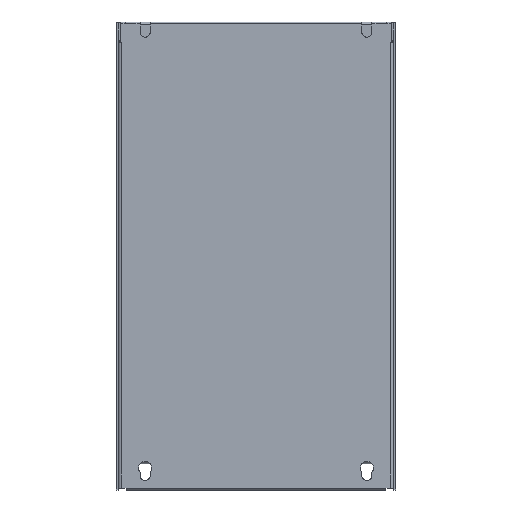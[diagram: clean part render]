
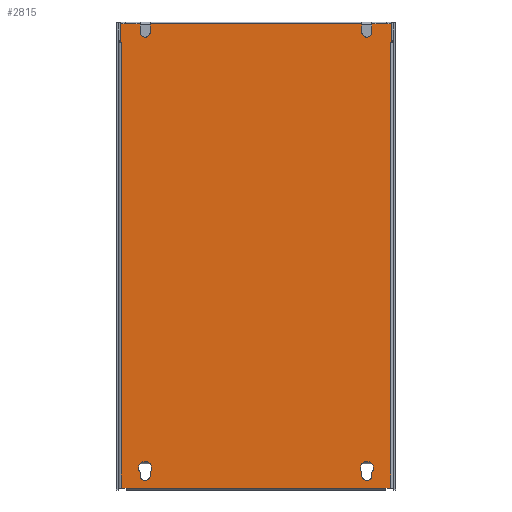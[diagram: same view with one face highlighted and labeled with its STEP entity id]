
A CAD part, front view. The second image highlights one B-rep face of the part: STEP entity #2815.
In plain terms, the highlighted planar face has unit normal (0, -1, 0).
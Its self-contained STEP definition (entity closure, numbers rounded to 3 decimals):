
#147=DIRECTION('',(1.,0.,0.));
#148=VECTOR('',#147,158.2);
#149=CARTESIAN_POINT('',(-79.1,-1.2,-141.3));
#150=LINE('',#149,#148);
#498=CARTESIAN_POINT('',(-67.5,-1.2,136.3));
#499=DIRECTION('',(0.,-1.,0.));
#500=DIRECTION('',(-1.,0.,0.));
#501=AXIS2_PLACEMENT_3D('',#498,#499,#500);
#506=DIRECTION('',(0.,0.,1.));
#507=VECTOR('',#506,5.);
#508=CARTESIAN_POINT('',(-64.5,-1.2,136.3));
#509=LINE('',#508,#507);
#513=CARTESIAN_POINT('',(67.5,-1.2,136.3));
#514=DIRECTION('',(0.,-1.,0.));
#515=DIRECTION('',(-1.,0.,0.));
#516=AXIS2_PLACEMENT_3D('',#513,#514,#515);
#521=DIRECTION('',(0.,0.,1.));
#522=VECTOR('',#521,5.);
#523=CARTESIAN_POINT('',(70.5,-1.2,136.3));
#524=LINE('',#523,#522);
#528=DIRECTION('',(-1.,0.,0.));
#529=VECTOR('',#528,0.5);
#530=CARTESIAN_POINT('',(82.6,-1.2,130.3));
#531=LINE('',#530,#529);
#535=DIRECTION('',(-1.,0.,0.));
#536=VECTOR('',#535,3.);
#537=CARTESIAN_POINT('',(82.1,-1.2,-141.3));
#538=LINE('',#537,#536);
#542=DIRECTION('',(-1.,0.,0.));
#543=VECTOR('',#542,3.);
#544=CARTESIAN_POINT('',(-79.1,-1.2,-141.3));
#545=LINE('',#544,#543);
#549=CARTESIAN_POINT('',(-67.5,-1.2,-129.2));
#550=DIRECTION('',(0.,-1.,0.));
#551=DIRECTION('',(1.,0.,0.));
#552=AXIS2_PLACEMENT_3D('',#549,#550,#551);
#557=CARTESIAN_POINT('',(-67.5,-1.2,-129.2));
#558=DIRECTION('',(0.,-1.,0.));
#559=DIRECTION('',(-1.,0.,0.));
#560=AXIS2_PLACEMENT_3D('',#557,#558,#559);
#565=CARTESIAN_POINT('',(-67.5,-1.2,-133.7));
#566=DIRECTION('',(0.,-1.,0.));
#567=DIRECTION('',(-1.,0.,0.));
#568=AXIS2_PLACEMENT_3D('',#565,#566,#567);
#573=CARTESIAN_POINT('',(-67.5,-1.2,-129.2));
#574=DIRECTION('',(0.,-1.,0.));
#575=DIRECTION('',(0.75,0.,-0.661));
#576=AXIS2_PLACEMENT_3D('',#573,#574,#575);
#581=CARTESIAN_POINT('',(67.5,-1.2,-129.2));
#582=DIRECTION('',(0.,-1.,0.));
#583=DIRECTION('',(1.,0.,0.));
#584=AXIS2_PLACEMENT_3D('',#581,#582,#583);
#589=CARTESIAN_POINT('',(67.5,-1.2,-129.2));
#590=DIRECTION('',(0.,-1.,0.));
#591=DIRECTION('',(-1.,0.,0.));
#592=AXIS2_PLACEMENT_3D('',#589,#590,#591);
#597=CARTESIAN_POINT('',(67.5,-1.2,-133.7));
#598=DIRECTION('',(0.,-1.,0.));
#599=DIRECTION('',(-1.,0.,0.));
#600=AXIS2_PLACEMENT_3D('',#597,#598,#599);
#605=CARTESIAN_POINT('',(67.5,-1.2,-129.2));
#606=DIRECTION('',(0.,-1.,0.));
#607=DIRECTION('',(0.75,0.,-0.661));
#608=AXIS2_PLACEMENT_3D('',#605,#606,#607);
#759=DIRECTION('',(0.,0.,1.));
#760=VECTOR('',#759,5.);
#761=CARTESIAN_POINT('',(64.5,-1.2,136.3));
#762=LINE('',#761,#760);
#933=DIRECTION('',(0.,0.,1.));
#934=VECTOR('',#933,5.);
#935=CARTESIAN_POINT('',(-70.5,-1.2,136.3));
#936=LINE('',#935,#934);
#947=DIRECTION('',(-1.,0.,0.));
#948=VECTOR('',#947,9.1);
#949=CARTESIAN_POINT('',(-70.5,-1.2,141.3));
#950=LINE('',#949,#948);
#1049=DIRECTION('',(-1.,0.,0.));
#1050=VECTOR('',#1049,3.);
#1051=CARTESIAN_POINT('',(82.6,-1.2,141.3));
#1052=LINE('',#1051,#1050);
#1056=DIRECTION('',(0.,0.,1.));
#1057=VECTOR('',#1056,11.);
#1058=CARTESIAN_POINT('',(82.6,-1.2,130.3));
#1059=LINE('',#1058,#1057);
#1114=DIRECTION('',(0.,0.,1.));
#1115=VECTOR('',#1114,271.6);
#1116=CARTESIAN_POINT('',(82.1,-1.2,-141.3));
#1117=LINE('',#1116,#1115);
#1435=DIRECTION('',(-1.,0.,0.));
#1436=VECTOR('',#1435,9.1);
#1437=CARTESIAN_POINT('',(79.6,-1.2,141.3));
#1438=LINE('',#1437,#1436);
#1449=DIRECTION('',(-1.,0.,0.));
#1450=VECTOR('',#1449,3.);
#1451=CARTESIAN_POINT('',(-79.6,-1.2,141.3));
#1452=LINE('',#1451,#1450);
#1477=DIRECTION('',(0.,0.,-1.));
#1478=VECTOR('',#1477,11.);
#1479=CARTESIAN_POINT('',(-82.6,-1.2,141.3));
#1480=LINE('',#1479,#1478);
#1484=DIRECTION('',(1.,0.,0.));
#1485=VECTOR('',#1484,0.5);
#1486=CARTESIAN_POINT('',(-82.6,-1.2,130.3));
#1487=LINE('',#1486,#1485);
#1521=DIRECTION('',(0.,0.,-1.));
#1522=VECTOR('',#1521,271.6);
#1523=CARTESIAN_POINT('',(-82.1,-1.2,130.3));
#1524=LINE('',#1523,#1522);
#1812=DIRECTION('',(-1.,0.,0.));
#1813=VECTOR('',#1812,129.);
#1814=CARTESIAN_POINT('',(64.5,-1.2,141.3));
#1815=LINE('',#1814,#1813);
#1847=DIRECTION('',(0.,0.,1.));
#1848=VECTOR('',#1847,1.854);
#1849=CARTESIAN_POINT('',(-70.5,-1.2,-133.7));
#1850=LINE('',#1849,#1848);
#1868=DIRECTION('',(0.,0.,-1.));
#1869=VECTOR('',#1868,1.854);
#1870=CARTESIAN_POINT('',(-64.5,-1.2,-131.846));
#1871=LINE('',#1870,#1869);
#1903=DIRECTION('',(0.,0.,1.));
#1904=VECTOR('',#1903,1.854);
#1905=CARTESIAN_POINT('',(64.5,-1.2,-133.7));
#1906=LINE('',#1905,#1904);
#1924=DIRECTION('',(0.,0.,-1.));
#1925=VECTOR('',#1924,1.854);
#1926=CARTESIAN_POINT('',(70.5,-1.2,-131.846));
#1927=LINE('',#1926,#1925);
#2086=CARTESIAN_POINT('',(-79.1,-1.2,-141.3));
#2088=VERTEX_POINT('',#2086);
#2090=CARTESIAN_POINT('',(79.1,-1.2,-141.3));
#2091=VERTEX_POINT('',#2090);
#2096=CARTESIAN_POINT('',(-82.1,-1.2,-141.3));
#2097=VERTEX_POINT('',#2096);
#2184=CARTESIAN_POINT('',(82.1,-1.2,-141.3));
#2185=VERTEX_POINT('',#2184);
#2186=CARTESIAN_POINT('',(-70.5,-1.2,136.3));
#2187=CARTESIAN_POINT('',(-64.5,-1.2,136.3));
#2188=VERTEX_POINT('',#2186);
#2189=VERTEX_POINT('',#2187);
#2190=CARTESIAN_POINT('',(-64.5,-1.2,141.3));
#2191=VERTEX_POINT('',#2190);
#2192=CARTESIAN_POINT('',(64.5,-1.2,141.3));
#2193=VERTEX_POINT('',#2192);
#2194=CARTESIAN_POINT('',(64.5,-1.2,136.3));
#2195=VERTEX_POINT('',#2194);
#2196=CARTESIAN_POINT('',(70.5,-1.2,136.3));
#2197=VERTEX_POINT('',#2196);
#2198=CARTESIAN_POINT('',(70.5,-1.2,141.3));
#2199=VERTEX_POINT('',#2198);
#2200=CARTESIAN_POINT('',(79.6,-1.2,141.3));
#2201=VERTEX_POINT('',#2200);
#2202=CARTESIAN_POINT('',(82.6,-1.2,141.3));
#2203=VERTEX_POINT('',#2202);
#2204=CARTESIAN_POINT('',(82.6,-1.2,130.3));
#2205=VERTEX_POINT('',#2204);
#2206=CARTESIAN_POINT('',(82.1,-1.2,130.3));
#2207=VERTEX_POINT('',#2206);
#2208=CARTESIAN_POINT('',(-82.1,-1.2,130.3));
#2209=VERTEX_POINT('',#2208);
#2210=CARTESIAN_POINT('',(-82.6,-1.2,130.3));
#2211=VERTEX_POINT('',#2210);
#2212=CARTESIAN_POINT('',(-82.6,-1.2,141.3));
#2213=VERTEX_POINT('',#2212);
#2214=CARTESIAN_POINT('',(-79.6,-1.2,141.3));
#2215=VERTEX_POINT('',#2214);
#2216=CARTESIAN_POINT('',(-70.5,-1.2,141.3));
#2217=VERTEX_POINT('',#2216);
#2218=CARTESIAN_POINT('',(-63.5,-1.2,-129.2));
#2219=CARTESIAN_POINT('',(-71.5,-1.2,-129.2));
#2220=VERTEX_POINT('',#2218);
#2221=VERTEX_POINT('',#2219);
#2222=CARTESIAN_POINT('',(-70.5,-1.2,-131.846));
#2223=VERTEX_POINT('',#2222);
#2224=CARTESIAN_POINT('',(-70.5,-1.2,-133.7));
#2225=VERTEX_POINT('',#2224);
#2226=CARTESIAN_POINT('',(-64.5,-1.2,-133.7));
#2227=VERTEX_POINT('',#2226);
#2228=CARTESIAN_POINT('',(-64.5,-1.2,-131.846));
#2229=VERTEX_POINT('',#2228);
#2230=CARTESIAN_POINT('',(71.5,-1.2,-129.2));
#2231=CARTESIAN_POINT('',(63.5,-1.2,-129.2));
#2232=VERTEX_POINT('',#2230);
#2233=VERTEX_POINT('',#2231);
#2234=CARTESIAN_POINT('',(64.5,-1.2,-131.846));
#2235=VERTEX_POINT('',#2234);
#2236=CARTESIAN_POINT('',(64.5,-1.2,-133.7));
#2237=VERTEX_POINT('',#2236);
#2238=CARTESIAN_POINT('',(70.5,-1.2,-133.7));
#2239=VERTEX_POINT('',#2238);
#2240=CARTESIAN_POINT('',(70.5,-1.2,-131.846));
#2241=VERTEX_POINT('',#2240);
#2743=CARTESIAN_POINT('',(0.,-1.2,0.));
#2744=DIRECTION('',(0.,1.,0.));
#2745=DIRECTION('',(1.,0.,0.));
#2746=AXIS2_PLACEMENT_3D('',#2743,#2744,#2745);
#2747=PLANE('',#2746);
#2749=ORIENTED_EDGE('',*,*,#2748,.T.);
#2751=ORIENTED_EDGE('',*,*,#2750,.T.);
#2753=ORIENTED_EDGE('',*,*,#2752,.F.);
#2755=ORIENTED_EDGE('',*,*,#2754,.F.);
#2757=ORIENTED_EDGE('',*,*,#2756,.T.);
#2759=ORIENTED_EDGE('',*,*,#2758,.T.);
#2761=ORIENTED_EDGE('',*,*,#2760,.F.);
#2763=ORIENTED_EDGE('',*,*,#2762,.F.);
#2765=ORIENTED_EDGE('',*,*,#2764,.F.);
#2767=ORIENTED_EDGE('',*,*,#2766,.T.);
#2769=ORIENTED_EDGE('',*,*,#2768,.F.);
#2770=ORIENTED_EDGE('',*,*,#2727,.T.);
#2771=ORIENTED_EDGE('',*,*,#2472,.F.);
#2772=ORIENTED_EDGE('',*,*,#2519,.T.);
#2774=ORIENTED_EDGE('',*,*,#2773,.F.);
#2776=ORIENTED_EDGE('',*,*,#2775,.F.);
#2778=ORIENTED_EDGE('',*,*,#2777,.F.);
#2780=ORIENTED_EDGE('',*,*,#2779,.F.);
#2782=ORIENTED_EDGE('',*,*,#2781,.F.);
#2784=ORIENTED_EDGE('',*,*,#2783,.F.);
#2785=EDGE_LOOP('',(#2749,#2751,#2753,#2755,#2757,#2759,#2761,#2763,#2765,#2767,
#2769,#2770,#2771,#2772,#2774,#2776,#2778,#2780,#2782,#2784));
#2786=FACE_OUTER_BOUND('',#2785,.F.);
#2788=ORIENTED_EDGE('',*,*,#2787,.T.);
#2790=ORIENTED_EDGE('',*,*,#2789,.T.);
#2792=ORIENTED_EDGE('',*,*,#2791,.F.);
#2794=ORIENTED_EDGE('',*,*,#2793,.T.);
#2796=ORIENTED_EDGE('',*,*,#2795,.F.);
#2798=ORIENTED_EDGE('',*,*,#2797,.T.);
#2799=EDGE_LOOP('',(#2788,#2790,#2792,#2794,#2796,#2798));
#2800=FACE_BOUND('',#2799,.F.);
#2802=ORIENTED_EDGE('',*,*,#2801,.T.);
#2804=ORIENTED_EDGE('',*,*,#2803,.T.);
#2806=ORIENTED_EDGE('',*,*,#2805,.F.);
#2808=ORIENTED_EDGE('',*,*,#2807,.T.);
#2810=ORIENTED_EDGE('',*,*,#2809,.F.);
#2812=ORIENTED_EDGE('',*,*,#2811,.T.);
#2813=EDGE_LOOP('',(#2802,#2804,#2806,#2808,#2810,#2812));
#2814=FACE_BOUND('',#2813,.F.);
#502=CIRCLE('',#501,3.);
#517=CIRCLE('',#516,3.);
#553=CIRCLE('',#552,4.);
#561=CIRCLE('',#560,4.);
#569=CIRCLE('',#568,3.);
#577=CIRCLE('',#576,4.);
#585=CIRCLE('',#584,4.);
#593=CIRCLE('',#592,4.);
#601=CIRCLE('',#600,3.);
#609=CIRCLE('',#608,4.);
#2472=EDGE_CURVE('',#2088,#2091,#150,.T.);
#2519=EDGE_CURVE('',#2088,#2097,#545,.T.);
#2727=EDGE_CURVE('',#2185,#2091,#538,.T.);
#2748=EDGE_CURVE('',#2188,#2189,#502,.T.);
#2750=EDGE_CURVE('',#2189,#2191,#509,.T.);
#2752=EDGE_CURVE('',#2193,#2191,#1815,.T.);
#2754=EDGE_CURVE('',#2195,#2193,#762,.T.);
#2756=EDGE_CURVE('',#2195,#2197,#517,.T.);
#2758=EDGE_CURVE('',#2197,#2199,#524,.T.);
#2760=EDGE_CURVE('',#2201,#2199,#1438,.T.);
#2762=EDGE_CURVE('',#2203,#2201,#1052,.T.);
#2764=EDGE_CURVE('',#2205,#2203,#1059,.T.);
#2766=EDGE_CURVE('',#2205,#2207,#531,.T.);
#2768=EDGE_CURVE('',#2185,#2207,#1117,.T.);
#2773=EDGE_CURVE('',#2209,#2097,#1524,.T.);
#2775=EDGE_CURVE('',#2211,#2209,#1487,.T.);
#2777=EDGE_CURVE('',#2213,#2211,#1480,.T.);
#2779=EDGE_CURVE('',#2215,#2213,#1452,.T.);
#2781=EDGE_CURVE('',#2217,#2215,#950,.T.);
#2783=EDGE_CURVE('',#2188,#2217,#936,.T.);
#2787=EDGE_CURVE('',#2220,#2221,#553,.T.);
#2789=EDGE_CURVE('',#2221,#2223,#561,.T.);
#2791=EDGE_CURVE('',#2225,#2223,#1850,.T.);
#2793=EDGE_CURVE('',#2225,#2227,#569,.T.);
#2795=EDGE_CURVE('',#2229,#2227,#1871,.T.);
#2797=EDGE_CURVE('',#2229,#2220,#577,.T.);
#2801=EDGE_CURVE('',#2232,#2233,#585,.T.);
#2803=EDGE_CURVE('',#2233,#2235,#593,.T.);
#2805=EDGE_CURVE('',#2237,#2235,#1906,.T.);
#2807=EDGE_CURVE('',#2237,#2239,#601,.T.);
#2809=EDGE_CURVE('',#2241,#2239,#1927,.T.);
#2811=EDGE_CURVE('',#2241,#2232,#609,.T.);
#2815=ADVANCED_FACE('',(#2786,#2800,#2814),#2747,.F.);
